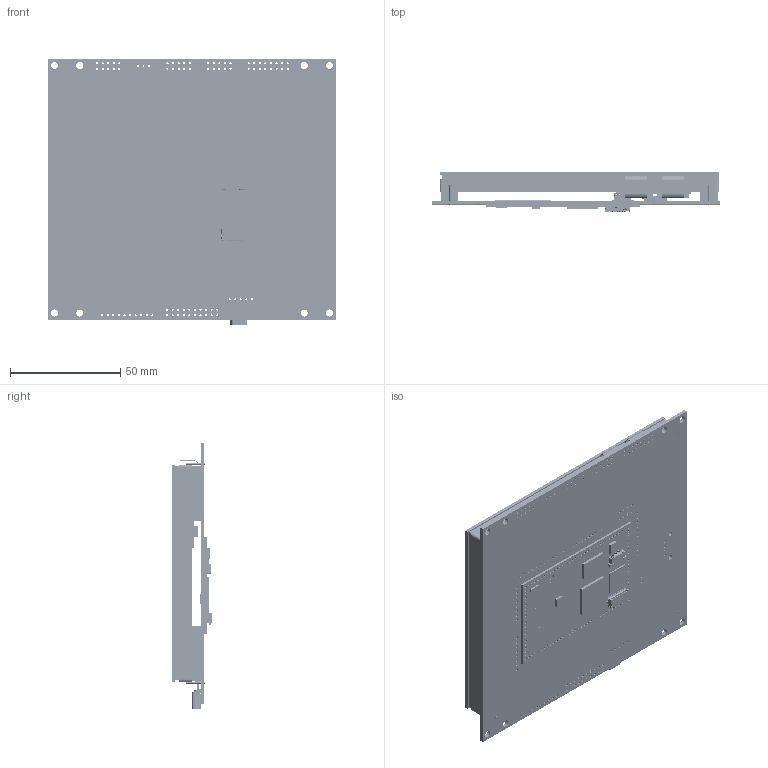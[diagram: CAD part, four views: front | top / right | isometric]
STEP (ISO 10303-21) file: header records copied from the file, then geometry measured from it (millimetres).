
FILE_DESCRIPTION (( 'STEP AP214' ), '1' );
FILE_NAME ('TW640x480C-K619SE4R2MU.STEP', '2015-03-04T11:53:09', ( '' ), ( '' ), 'SwSTEP 2.0', 'SolidWorks 2015', '' );
FILE_SCHEMA (( 'AUTOMOTIVE_DESIGN' ));
Length unit declared in the file: millimetre
Products named in the file (25): MOLEX - 54819-0572 - Mini USB; Micro SD; TU640x480C-K612A1; TU640x480C-K612A1 - PCB; TW640x480C-K619SE4R2MU; MCBK42; pn28; 40 pin connector; micro sd connector; lcd connector; pn28 pcb; MPCT Conn 5.7; 5.7 mpct screen
Assembly tree (13 placements, depth 3):
  MOLEX - 54819-0572 - Mini USB
  Micro SD
  TU640x480C-K612A1
  TU640x480C-K612A1 - PCB
  TW640x480C-K619SE4R2MU
    TU640x480C-K612A1 - PCB
    TU640x480C-K612A1
    Micro SD
    MOLEX - 54819-0572 - Mini USB
    5.7 mpct screen
    MPCT Conn 5.7  x2
    pn28
      pn28 pcb
      lcd connector
      micro sd connector
      40 pin connector
    MCBK42
Bounding box: 131 x 18.5 x 121 mm (x, y, z)
Volume: 123723.5 mm3; surface area: 116432.5 mm2
Topology: 13 solids, 14 shells, 4982 faces, 12828 edges, 8430 vertices
Faces by surface type: plane 2981, cylinder 1928, bspline 73
Entity records: 183154 total; most frequent: CARTESIAN_POINT 28011, DIRECTION 26276, ORIENTED_EDGE 25455, EDGE_CURVE 12760, AXIS2_PLACEMENT_3D 8776, VECTOR 8724, LINE 8724, VERTEX_POINT 8406
